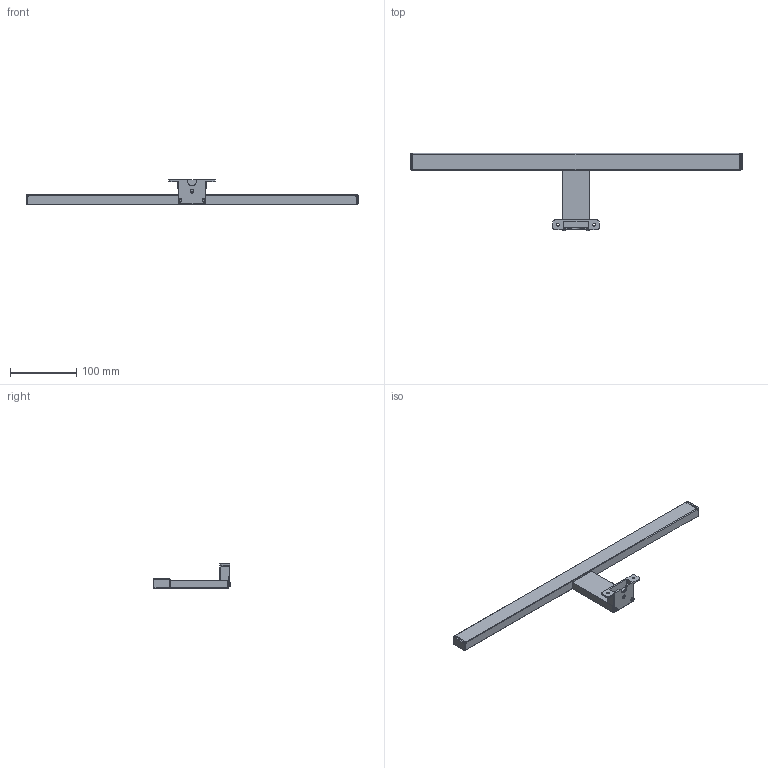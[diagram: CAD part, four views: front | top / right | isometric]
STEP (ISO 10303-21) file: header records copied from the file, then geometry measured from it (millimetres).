
FILE_DESCRIPTION(/* description */ (''),/* implementation_level */ '2;1');
FILE_NAME(/* name */ '5995333_hcl-226-500_asm_stp.stp',/* time_stamp */ '2019-06-11T10:15:57+02:00',/* author */ (''),/* organization */ (''),/* preprocessor_version */ 'ST-DEVELOPER v16.7',/* originating_system */ 'SIEMENS PLM Software NX 12.0',/* authorisation */ '');
FILE_SCHEMA (('AUTOMOTIVE_DESIGN { 1 0 10303 214 3 1 1 1 }'));
Length unit declared in the file: millimetre
Products named in the file (1): p.sc21B4B528x355
Bounding box: 502 x 116.5 x 37.25 mm (x, y, z)
Volume: 237401.5 mm3; surface area: 54383.4 mm2
Topology: 1 solids, 1 shells, 178 faces, 432 edges, 262 vertices
Faces by surface type: plane 74, cylinder 58, bspline 22, cone 20, torus 4
Full cylindrical faces by diameter (mm): 6 x1
Entity records: 6055 total; most frequent: CARTESIAN_POINT 2044, ORIENTED_EDGE 862, DIRECTION 783, EDGE_CURVE 431, AXIS2_PLACEMENT_3D 269, VERTEX_POINT 262, LINE 245, VECTOR 245
